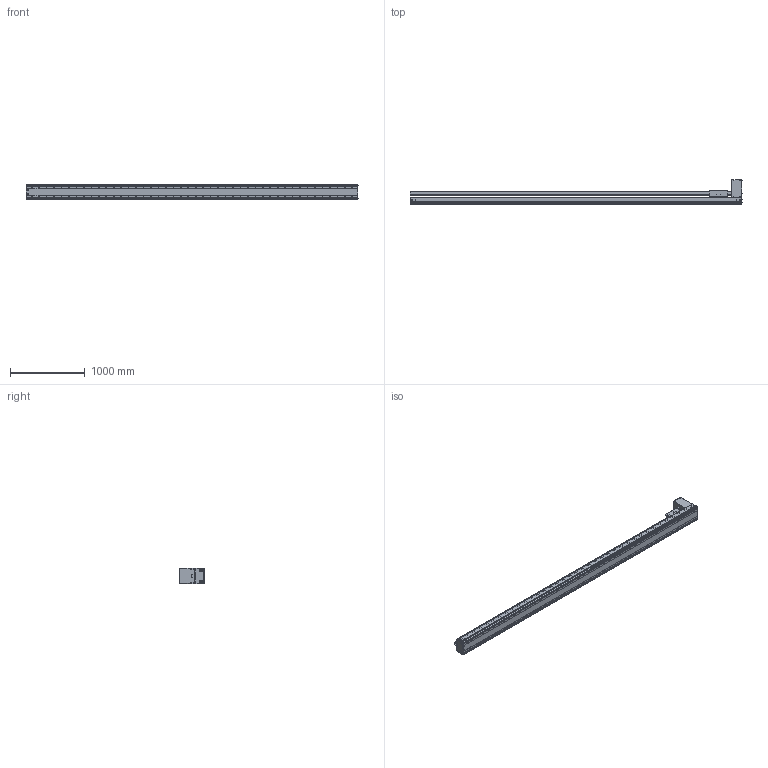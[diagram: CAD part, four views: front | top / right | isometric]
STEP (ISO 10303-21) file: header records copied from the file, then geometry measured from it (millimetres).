
FILE_DESCRIPTION((''),'2;1');
FILE_NAME('BE60J-BT-M19N-W95_IGS_PRT','2017-06-18T',(' '),(''),'PRO/ENGINEER BY PARAMETRIC TECHNOLOGY CORPORATION, 2015030','PRO/ENGINEER BY PARAMETRIC TECHNOLOGY CORPORATION, 2015030','');
FILE_SCHEMA(('CONFIG_CONTROL_DESIGN'));
Products named in the file (1): BE60J-BT-M19N-W95_IGS_PRT
Bounding box: 4454.4 x 327.5 x 214 mm (x, y, z)
Volume: 34880539.5 mm3; surface area: 10231645.8 mm2
Topology: 2 solids, 343 shells, 3007 faces, 8931 edges, 5978 vertices
Faces by surface type: cylinder 1680, plane 991, cone 240, torus 48, sphere 48
Entity records: 104639 total; most frequent: CARTESIAN_POINT 25138, DIRECTION 16271, ORIENTED_EDGE 15952, EDGE_CURVE 8642, AXIS2_PLACEMENT_3D 6253, VERTEX_POINT 5946, EDGE_LOOP 3804, VECTOR 3765
